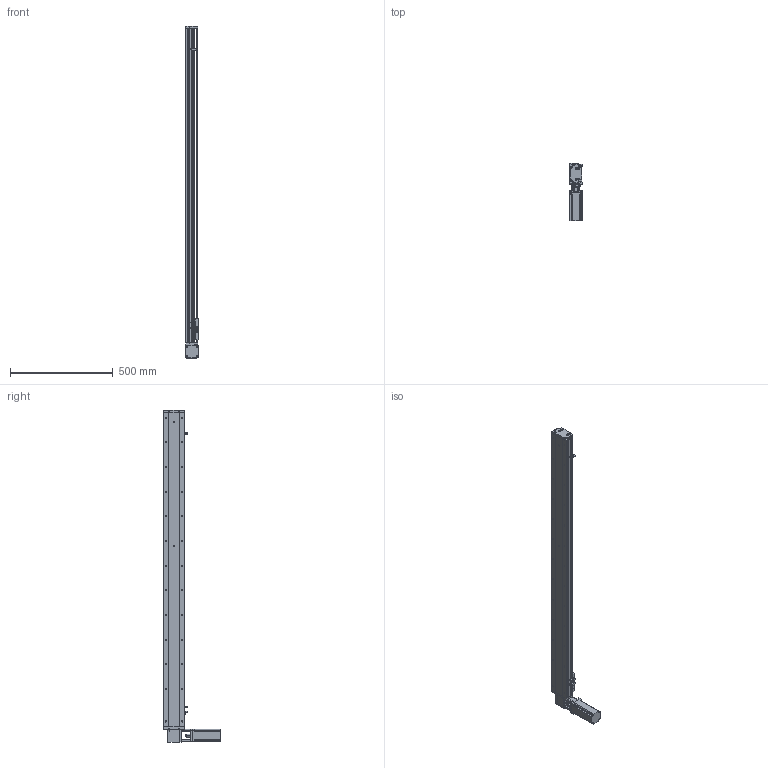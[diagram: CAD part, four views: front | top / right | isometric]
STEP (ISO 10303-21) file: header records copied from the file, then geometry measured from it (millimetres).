
FILE_DESCRIPTION (( 'STEP AP214' ), '1' );
FILE_NAME ('KSD100B-S1350-MLT-CM.STEP', '2019-11-11T05:28:04', ( '微软用户' ), ( '微软中国' ), 'SwSTEP 2.0', 'SolidWorks 2014', '' );
FILE_SCHEMA (( 'AUTOMOTIVE_DESIGN' ));
Length unit declared in the file: millimetre
Products named in the file (12): 100宽安装板同步带带电机座400W,86; 100遵鎮湛假蚾啣1 ; 100宽防尘板1350行程-同步带; U倰嫖萇EEㄜSX672; 覜茼え100遵圉猾敕; 台达ECMA－C20604AS伺服电机; 100宽马达安装板同步带右; 100宽同步带安装板半封闭; 100宽马达安装板同步带; 100遵傷啣肮祭湍; 100宽底板半封闭同步带1350行程; KSD100B-S1350-MLT-CM
Assembly tree (13 placements, depth 2):
  KSD100B-S1350-MLT-CM
    100宽底板半封闭同步带1350行程
    100遵傷啣肮祭湍
    100宽马达安装板同步带
    100宽同步带安装板半封闭
    100宽马达安装板同步带右
    台达ECMA－C20604AS伺服电机
    覜茼え100遵圉猾敕
    U倰嫖萇EEㄜSX672  x3
    100宽防尘板1350行程-同步带
    100遵鎮湛假蚾啣1 
    100宽安装板同步带带电机座400W,86
Bounding box: 61 x 275 x 1615 mm (x, y, z)
Volume: 3457159.2 mm3; surface area: 1149426 mm2
Topology: 14 solids, 14 shells, 1558 faces, 4395 edges, 2777 vertices
Faces by surface type: cylinder 808, plane 587, cone 163
Entity records: 55567 total; most frequent: CARTESIAN_POINT 11620, DIRECTION 7667, ORIENTED_EDGE 7370, EDGE_CURVE 3685, AXIS2_PLACEMENT_3D 2834, VERTEX_POINT 2401, VECTOR 1999, LINE 1999
